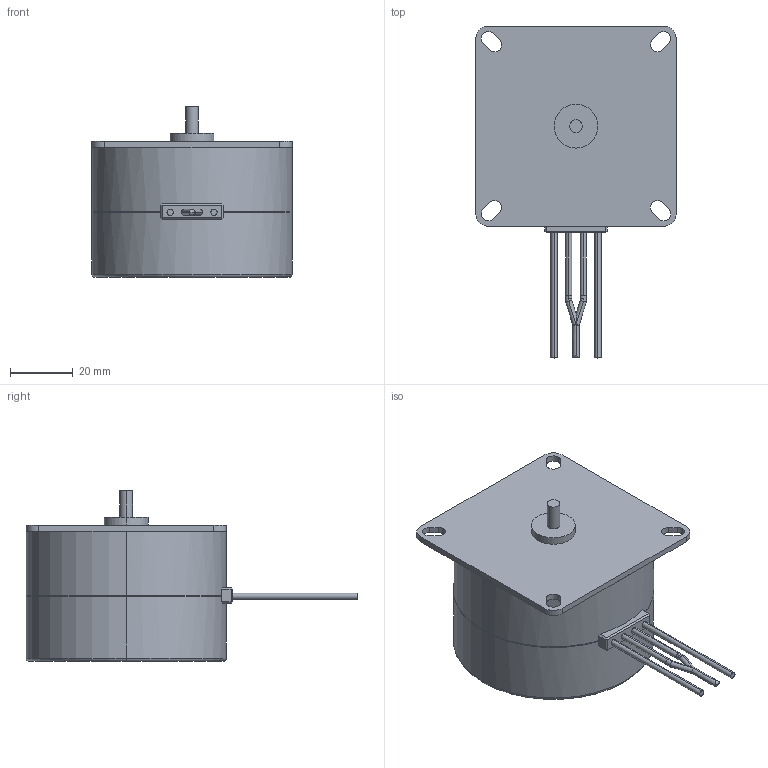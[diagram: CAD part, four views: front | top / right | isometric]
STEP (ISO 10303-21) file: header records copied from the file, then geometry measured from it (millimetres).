
FILE_DESCRIPTION (( 'STEP AP214' ), '1' );
FILE_NAME ('64S032L-C.STEP', '2019-04-16T13:27:16', ( '' ), ( '' ), 'SwSTEP 2.0', 'SolidWorks 2018', '' );
FILE_SCHEMA (( 'AUTOMOTIVE_DESIGN' ));
Length unit declared in the file: millimetre
Products named in the file (1): 64S032L-C
Bounding box: 64 x 106 x 54.5 mm (x, y, z)
Volume: 142593.7 mm3; surface area: 18179.1 mm2
Topology: 1 solids, 1 shells, 102 faces, 248 edges, 152 vertices
Faces by surface type: cylinder 59, plane 41, torus 2
Entity records: 3014 total; most frequent: CARTESIAN_POINT 569, DIRECTION 520, ORIENTED_EDGE 496, EDGE_CURVE 248, AXIS2_PLACEMENT_3D 191, VERTEX_POINT 152, LINE 138, VECTOR 138
